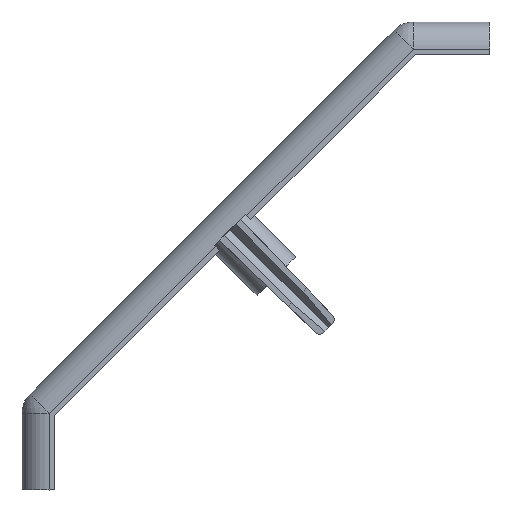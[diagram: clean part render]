
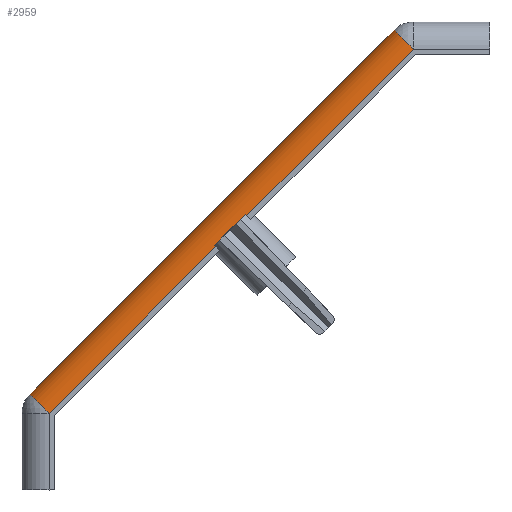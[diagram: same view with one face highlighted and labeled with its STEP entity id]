
A CAD part, front view. The second image highlights one B-rep face of the part: STEP entity #2959.
In plain terms, the highlighted cylindrical face has radius 2.5 mm (diameter 5 mm), a partial arc.
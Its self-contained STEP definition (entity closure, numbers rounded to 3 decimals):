
#192=CARTESIAN_POINT('',(23.427,25.508,25.217));
#193=VERTEX_POINT('',#192);
#200=CARTESIAN_POINT('',(20.598,25.508,22.388));
#201=VERTEX_POINT('',#200);
#202=CARTESIAN_POINT('',(20.598,25.508,22.388));
#203=DIRECTION('',(0.707,0.0,0.707));
#204=VECTOR('',#203,4.);
#205=LINE('',#202,#204);
#206=EDGE_CURVE('',#201,#193,#205,.T.);
#2587=CARTESIAN_POINT('',(3.732,28.,8.775));
#2588=VERTEX_POINT('',#2587);
#2597=CARTESIAN_POINT('',(37.025,28.,42.068));
#2598=VERTEX_POINT('',#2597);
#2599=CARTESIAN_POINT('',(37.025,28.,42.068));
#2600=DIRECTION('',(-0.707,0.,-0.707));
#2601=VECTOR('',#2600,47.083);
#2602=LINE('',#2599,#2601);
#2603=EDGE_CURVE('',#2598,#2588,#2602,.T.);
#2709=CARTESIAN_POINT('',(38.793,25.5,40.3));
#2710=VERTEX_POINT('',#2709);
#2711=CARTESIAN_POINT('',(38.793,28.,40.3));
#2712=DIRECTION('',(0.707,0.0,0.707));
#2713=DIRECTION('',(0.0,-1.0,0.0));
#2714=AXIS2_PLACEMENT_3D('',#2711,#2712,#2713);
#2715=CIRCLE('',#2714,2.5);
#2716=EDGE_CURVE('',#2710,#2598,#2715,.F.);
#2766=CARTESIAN_POINT('',(5.5,25.5,7.007));
#2767=VERTEX_POINT('',#2766);
#2768=CARTESIAN_POINT('',(5.5,28.,7.007));
#2769=DIRECTION('',(-0.707,0.,-0.707));
#2770=DIRECTION('',(-0.5,-0.707,0.5));
#2771=AXIS2_PLACEMENT_3D('',#2768,#2769,#2770);
#2772=CIRCLE('',#2771,2.5);
#2773=EDGE_CURVE('',#2767,#2588,#2772,.T.);
#2918=CARTESIAN_POINT('',(25.97,28.,27.477));
#2919=DIRECTION('',(0.707,0.,0.707));
#2920=DIRECTION('',(-0.5,-0.707,0.5));
#2921=AXIS2_PLACEMENT_3D('',#2918,#2919,#2920);
#2922=CYLINDRICAL_SURFACE('',#2921,2.5);
#2923=CARTESIAN_POINT('',(23.568,25.5,25.075));
#2924=VERTEX_POINT('',#2923);
#2925=CARTESIAN_POINT('',(23.568,28.,25.075));
#2926=DIRECTION('',(0.707,0.,0.707));
#2927=DIRECTION('',(-0.5,-0.707,0.5));
#2928=AXIS2_PLACEMENT_3D('',#2925,#2926,#2927);
#2929=CIRCLE('',#2928,2.5);
#2930=EDGE_CURVE('',#193,#2924,#2929,.T.);
#2931=ORIENTED_EDGE('',*,*,#2930,.T.);
#2932=CARTESIAN_POINT('',(23.568,25.5,25.075));
#2933=DIRECTION('',(0.707,0.,0.707));
#2934=VECTOR('',#2933,21.531);
#2935=LINE('',#2932,#2934);
#2936=EDGE_CURVE('',#2924,#2710,#2935,.T.);
#2937=ORIENTED_EDGE('',*,*,#2936,.T.);
#2938=ORIENTED_EDGE('',*,*,#2716,.T.);
#2939=ORIENTED_EDGE('',*,*,#2603,.T.);
#2940=ORIENTED_EDGE('',*,*,#2773,.F.);
#2941=CARTESIAN_POINT('',(20.74,25.5,22.247));
#2942=VERTEX_POINT('',#2941);
#2943=CARTESIAN_POINT('',(5.5,25.5,7.007));
#2944=DIRECTION('',(0.707,0.,0.707));
#2945=VECTOR('',#2944,21.552);
#2946=LINE('',#2943,#2945);
#2947=EDGE_CURVE('',#2767,#2942,#2946,.T.);
#2948=ORIENTED_EDGE('',*,*,#2947,.T.);
#2949=CARTESIAN_POINT('',(20.74,28.,22.247));
#2950=DIRECTION('',(-0.707,0.,-0.707));
#2951=DIRECTION('',(-0.5,-0.707,0.5));
#2952=AXIS2_PLACEMENT_3D('',#2949,#2950,#2951);
#2953=CIRCLE('',#2952,2.5);
#2954=EDGE_CURVE('',#2942,#201,#2953,.T.);
#2955=ORIENTED_EDGE('',*,*,#2954,.T.);
#2956=ORIENTED_EDGE('',*,*,#206,.T.);
#2957=EDGE_LOOP('',(#2931,#2937,#2938,#2939,#2940,#2948,#2955,#2956));
#2958=FACE_OUTER_BOUND('',#2957,.T.);
#2959=ADVANCED_FACE('',(#2958),#2922,.T.);
